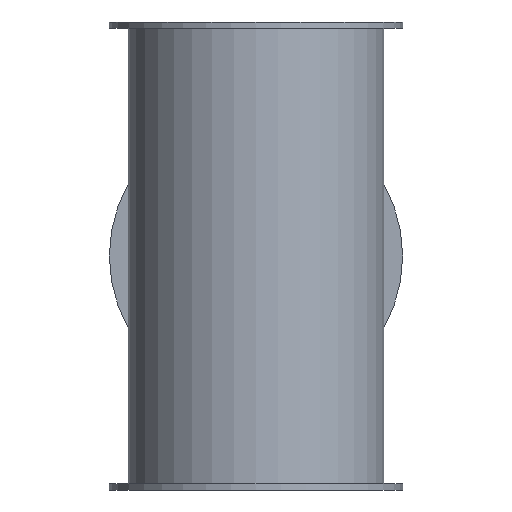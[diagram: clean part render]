
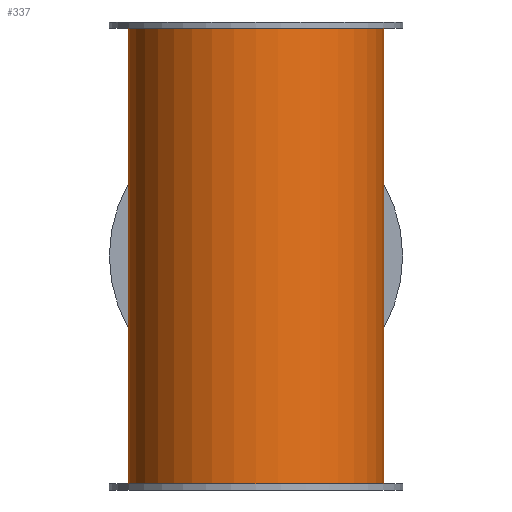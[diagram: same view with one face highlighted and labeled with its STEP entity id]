
A CAD part, front view. The second image highlights one B-rep face of the part: STEP entity #337.
In plain terms, the highlighted cylindrical face has radius 41 mm (diameter 82 mm), a full revolution.
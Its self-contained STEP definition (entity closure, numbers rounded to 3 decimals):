
#152=CARTESIAN_POINT('',(41.,0.,148.0));
#153=VERTEX_POINT('',#152);
#154=CARTESIAN_POINT('',(0.0,0.0,148.0));
#155=DIRECTION('',(0.0,0.0,-1.0));
#156=DIRECTION('',(-1.0,0.0,0.0));
#157=AXIS2_PLACEMENT_3D('',#154,#155,#156);
#158=CIRCLE('',#157,41.);
#159=EDGE_CURVE('',#153,#153,#158,.T.);
#200=CARTESIAN_POINT('',(-41.,0.,2.0));
#201=VERTEX_POINT('',#200);
#202=CARTESIAN_POINT('',(0.0,0.0,2.0));
#203=DIRECTION('',(0.0,0.0,1.0));
#204=DIRECTION('',(-1.0,0.0,0.0));
#205=AXIS2_PLACEMENT_3D('',#202,#203,#204);
#206=CIRCLE('',#205,41.);
#207=EDGE_CURVE('',#201,#201,#206,.T.);
#289=CARTESIAN_POINT('',(-41.,0.0,75.));
#290=VERTEX_POINT('',#289);
#291=CARTESIAN_POINT('',(41.,0.0,75.0));
#292=VERTEX_POINT('',#291);
#293=CARTESIAN_POINT('',(0.0,0.0,75.0));
#294=DIRECTION('',(0.0,-0.707,-0.707));
#295=DIRECTION('',(0.0,0.707,-0.707));
#296=AXIS2_PLACEMENT_3D('',#293,#294,#295);
#297=ELLIPSE('',#296,57.983,41.);
#298=EDGE_CURVE('',#290,#292,#297,.T.);
#300=CARTESIAN_POINT('',(0.0,0.0,75.0));
#301=DIRECTION('',(0.0,-0.707,0.707));
#302=DIRECTION('',(0.0,-0.707,-0.707));
#303=AXIS2_PLACEMENT_3D('',#300,#301,#302);
#304=ELLIPSE('',#303,57.983,41.);
#305=EDGE_CURVE('',#292,#290,#304,.T.);
#322=CARTESIAN_POINT('',(0.0,0.0,0.0));
#323=DIRECTION('',(0.0,0.0,1.0));
#324=DIRECTION('',(-1.0,0.0,0.0));
#325=AXIS2_PLACEMENT_3D('',#322,#323,#324);
#326=CYLINDRICAL_SURFACE('',#325,41.);
#327=ORIENTED_EDGE('',*,*,#159,.T.);
#328=EDGE_LOOP('',(#327));
#329=FACE_OUTER_BOUND('',#328,.T.);
#330=ORIENTED_EDGE('',*,*,#207,.T.);
#331=EDGE_LOOP('',(#330));
#332=FACE_BOUND('',#331,.T.);
#333=ORIENTED_EDGE('',*,*,#305,.T.);
#334=ORIENTED_EDGE('',*,*,#298,.T.);
#335=EDGE_LOOP('',(#333,#334));
#336=FACE_BOUND('',#335,.T.);
#337=ADVANCED_FACE('',(#329,#332,#336),#326,.T.);
